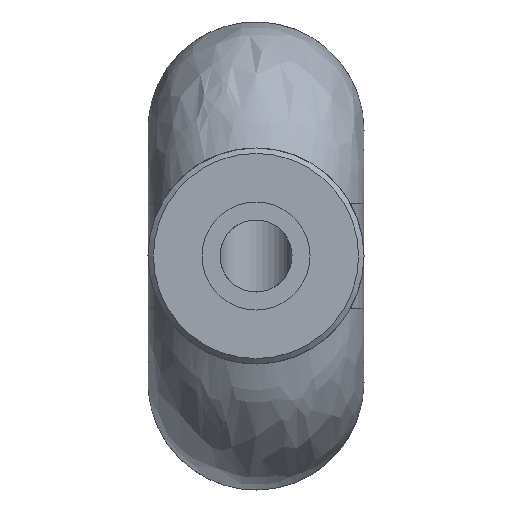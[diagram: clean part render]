
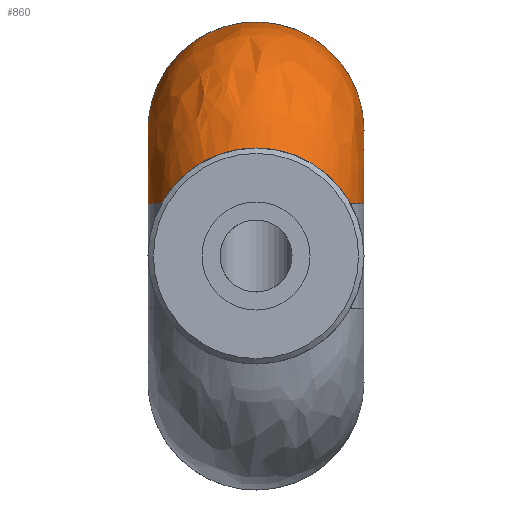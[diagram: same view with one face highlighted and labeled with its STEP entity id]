
A CAD part, front view. The second image highlights one B-rep face of the part: STEP entity #860.
In plain terms, the highlighted free-form (B-spline) face has degree [2, 2] with [7, 3] control points.
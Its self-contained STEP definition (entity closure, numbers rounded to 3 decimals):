
#23=B_SPLINE_CURVE_WITH_KNOTS('',3,(#1646,#1647,#1648,#1649,#1650,#1651,
#1652,#1653,#1654,#1655),.UNSPECIFIED.,.F.,.F.,(4,2,2,2,4),(-0.712,
-0.62,-0.473,-0.245,0.),
 .UNSPECIFIED.);
#24=B_SPLINE_CURVE_WITH_KNOTS('',3,(#1657,#1658,#1659,#1660,#1661,#1662,
#1663,#1664,#1665,#1666,#1667,#1668),.UNSPECIFIED.,.F.,.F.,(4,2,2,2,2,4),
(-1.424,-1.228,-1.04,-0.863,
-0.737,-0.712),.UNSPECIFIED.);
#34=(
BOUNDED_SURFACE()
B_SPLINE_SURFACE(2,2,((#1692,#1693,#1694),(#1695,#1696,#1697),(#1698,#1699,
#1700),(#1701,#1702,#1703),(#1704,#1705,#1706),(#1707,#1708,#1709),(#1710,
#1711,#1712)),.UNSPECIFIED.,.F.,.F.,.F.)
B_SPLINE_SURFACE_WITH_KNOTS((3,2,2,3),(3,3),(-2.323,-0.774,
0.774,2.323),(-3.142,-1.571),
 .UNSPECIFIED.)
GEOMETRIC_REPRESENTATION_ITEM()
RATIONAL_B_SPLINE_SURFACE(((1.,0.707,1.),(0.715,
0.505,0.715),(1.,0.707,1.),(0.715,
0.505,0.715),(1.,0.707,1.),(0.715,
0.505,0.715),(1.,0.707,1.)))
REPRESENTATION_ITEM('')
SURFACE()
);
#112=FACE_OUTER_BOUND('',#179,.T.);
#179=EDGE_LOOP('',(#720,#721,#722,#723,#724,#725));
#317=CIRCLE('',#958,6.);
#319=CIRCLE('',#962,6.);
#323=CIRCLE('',#973,6.);
#332=CIRCLE('',#993,6.);
#389=VERTEX_POINT('',#1532);
#390=VERTEX_POINT('',#1534);
#395=VERTEX_POINT('',#1552);
#404=VERTEX_POINT('',#1611);
#413=VERTEX_POINT('',#1642);
#415=VERTEX_POINT('',#1645);
#486=EDGE_CURVE('',#390,#389,#317,.T.);
#493=EDGE_CURVE('',#389,#395,#319,.T.);
#506=EDGE_CURVE('',#404,#395,#323,.T.);
#521=EDGE_CURVE('',#415,#413,#23,.T.);
#523=EDGE_CURVE('',#404,#415,#24,.T.);
#526=EDGE_CURVE('',#390,#413,#332,.T.);
#720=ORIENTED_EDGE('',*,*,#523,.T.);
#721=ORIENTED_EDGE('',*,*,#521,.T.);
#722=ORIENTED_EDGE('',*,*,#526,.F.);
#723=ORIENTED_EDGE('',*,*,#486,.T.);
#724=ORIENTED_EDGE('',*,*,#493,.T.);
#725=ORIENTED_EDGE('',*,*,#506,.F.);
#860=ADVANCED_FACE('',(#112),#34,.F.);
#958=AXIS2_PLACEMENT_3D('',#1535,#1156,#1157);
#962=AXIS2_PLACEMENT_3D('',#1554,#1166,#1167);
#973=AXIS2_PLACEMENT_3D('',#1613,#1191,#1192);
#993=AXIS2_PLACEMENT_3D('',#1690,#1236,#1237);
#1156=DIRECTION('center_axis',(0.,-1.,0.));
#1157=DIRECTION('ref_axis',(1.,0.,0.));
#1166=DIRECTION('center_axis',(0.,-1.,0.));
#1167=DIRECTION('ref_axis',(1.,0.,0.));
#1191=DIRECTION('center_axis',(0.,0.,-1.));
#1192=DIRECTION('ref_axis',(1.,0.,0.));
#1236=DIRECTION('center_axis',(0.,0.,-1.));
#1237=DIRECTION('ref_axis',(1.,0.,0.));
#1532=CARTESIAN_POINT('',(6.,-2.5,7.));
#1534=CARTESIAN_POINT('',(4.381,-2.5,2.9));
#1535=CARTESIAN_POINT('Origin',(0.,-2.5,7.));
#1552=CARTESIAN_POINT('',(-4.381,-2.5,2.9));
#1554=CARTESIAN_POINT('Origin',(0.,-2.5,7.));
#1611=CARTESIAN_POINT('',(-5.253,-9.5,2.9));
#1613=CARTESIAN_POINT('Origin',(0.,-6.6,2.9));
#1642=CARTESIAN_POINT('',(5.253,-9.5,2.9));
#1645=CARTESIAN_POINT('',(0.,-12.112,6.));
#1646=CARTESIAN_POINT('Ctrl Pts',(0.,-12.112,
6.));
#1647=CARTESIAN_POINT('Ctrl Pts',(0.305,-12.112,6.));
#1648=CARTESIAN_POINT('Ctrl Pts',(0.61,-12.096,5.977));
#1649=CARTESIAN_POINT('Ctrl Pts',(1.387,-12.008,5.857));
#1650=CARTESIAN_POINT('Ctrl Pts',(1.845,-11.914,5.728));
#1651=CARTESIAN_POINT('Ctrl Pts',(2.949,-11.572,5.276));
#1652=CARTESIAN_POINT('Ctrl Pts',(3.536,-11.277,4.892));
#1653=CARTESIAN_POINT('Ctrl Pts',(4.553,-10.51,3.971));
#1654=CARTESIAN_POINT('Ctrl Pts',(4.956,-10.037,3.437));
#1655=CARTESIAN_POINT('Ctrl Pts',(5.253,-9.5,2.9));
#1657=CARTESIAN_POINT('Ctrl Pts',(-5.253,-9.5,2.9));
#1658=CARTESIAN_POINT('Ctrl Pts',(-5.015,-9.93,3.33));
#1659=CARTESIAN_POINT('Ctrl Pts',(-4.709,-10.319,3.759));
#1660=CARTESIAN_POINT('Ctrl Pts',(-3.958,-10.99,4.541));
#1661=CARTESIAN_POINT('Ctrl Pts',(-3.523,-11.271,4.891));
#1662=CARTESIAN_POINT('Ctrl Pts',(-2.551,-11.712,5.458));
#1663=CARTESIAN_POINT('Ctrl Pts',(-2.029,-11.874,5.676));
#1664=CARTESIAN_POINT('Ctrl Pts',(-1.074,-12.052,5.917));
#1665=CARTESIAN_POINT('Ctrl Pts',(-0.666,-12.096,
5.977));
#1666=CARTESIAN_POINT('Ctrl Pts',(-0.168,-12.111,
5.998));
#1667=CARTESIAN_POINT('Ctrl Pts',(-0.084,-12.112,
6.));
#1668=CARTESIAN_POINT('Ctrl Pts',(0.,-12.112,
6.));
#1690=CARTESIAN_POINT('Origin',(0.,-6.6,2.9));
#1692=CARTESIAN_POINT('Ctrl Pts',(-4.381,-2.5,2.9));
#1693=CARTESIAN_POINT('Ctrl Pts',(-4.381,-2.5,2.9));
#1694=CARTESIAN_POINT('Ctrl Pts',(-4.381,-2.5,2.9));
#1695=CARTESIAN_POINT('Ctrl Pts',(-8.391,-2.5,7.185));
#1696=CARTESIAN_POINT('Ctrl Pts',(-8.391,-6.785,7.185));
#1697=CARTESIAN_POINT('Ctrl Pts',(-8.391,-6.785,2.9));
#1698=CARTESIAN_POINT('Ctrl Pts',(-4.196,-2.5,11.289));
#1699=CARTESIAN_POINT('Ctrl Pts',(-4.196,-10.889,11.289));
#1700=CARTESIAN_POINT('Ctrl Pts',(-4.196,-10.889,2.9));
#1701=CARTESIAN_POINT('Ctrl Pts',(0.,-2.5,15.393));
#1702=CARTESIAN_POINT('Ctrl Pts',(0.,-14.993,
15.393));
#1703=CARTESIAN_POINT('Ctrl Pts',(0.,-14.993,
2.9));
#1704=CARTESIAN_POINT('Ctrl Pts',(4.196,-2.5,11.289));
#1705=CARTESIAN_POINT('Ctrl Pts',(4.196,-10.889,11.289));
#1706=CARTESIAN_POINT('Ctrl Pts',(4.196,-10.889,2.9));
#1707=CARTESIAN_POINT('Ctrl Pts',(8.391,-2.5,7.185));
#1708=CARTESIAN_POINT('Ctrl Pts',(8.391,-6.785,7.185));
#1709=CARTESIAN_POINT('Ctrl Pts',(8.391,-6.785,2.9));
#1710=CARTESIAN_POINT('Ctrl Pts',(4.381,-2.5,2.9));
#1711=CARTESIAN_POINT('Ctrl Pts',(4.381,-2.5,2.9));
#1712=CARTESIAN_POINT('Ctrl Pts',(4.381,-2.5,2.9));
